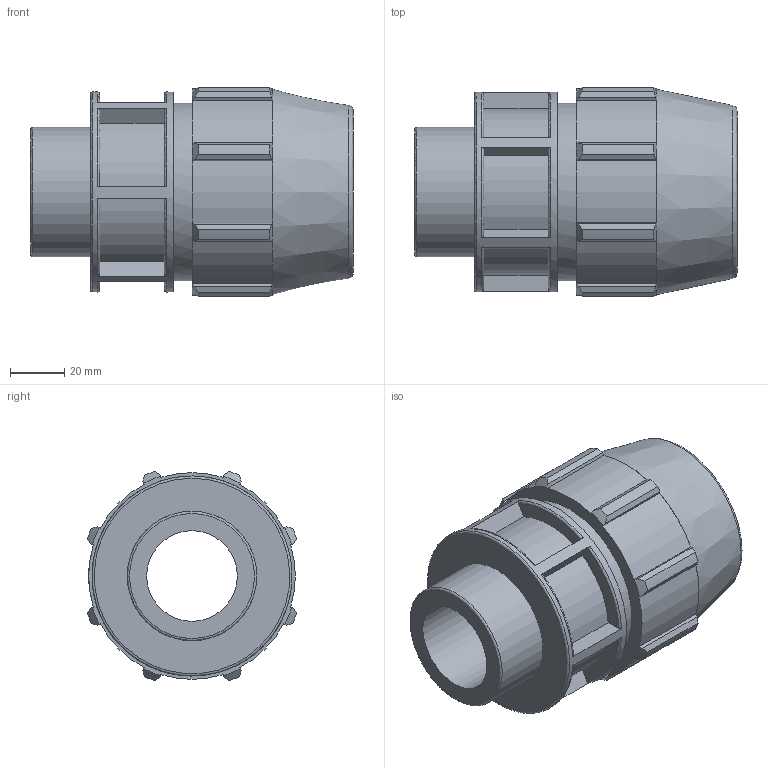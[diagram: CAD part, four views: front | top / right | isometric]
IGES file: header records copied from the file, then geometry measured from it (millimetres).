
Global section: file name: 0702M0T13015.ipt; native system: Autodesk Inventor 2019; preprocessor: unknown; author: KIM; date: 20210826.124442; units: inch
Bounding box: 119.13 x 77.2 x 77.2 mm (x, y, z)
Volume: 263118.8 mm3; surface area: 52998.4 mm2
Topology: 1 solids, 1 shells, 117 faces, 321 edges, 216 vertices
Faces by surface type: plane 63, cylinder 25, revolution 19, cone 10
Full cylindrical faces by diameter (mm): 47.803 x1, 65.634 x1, 73.838 x1
